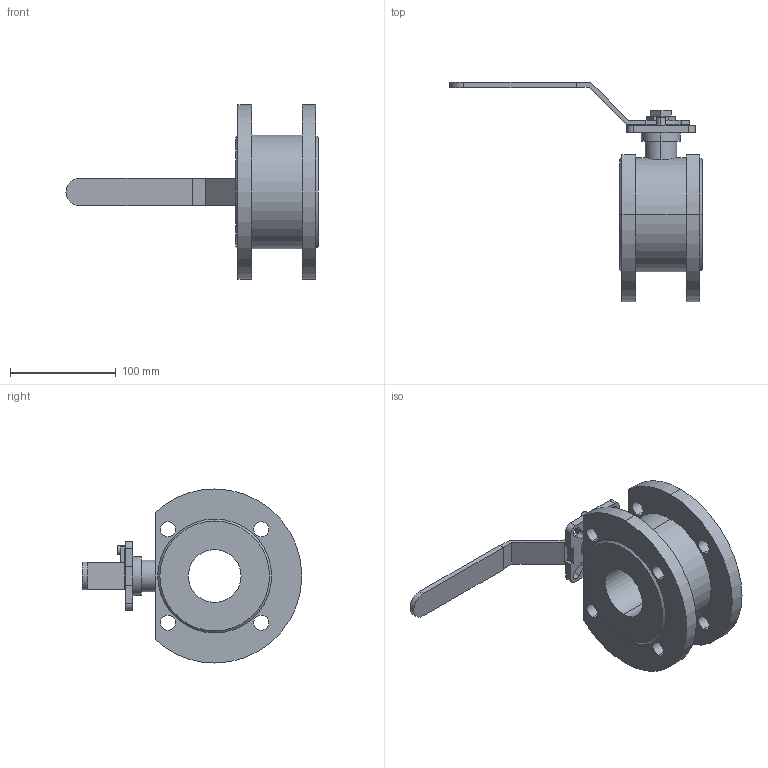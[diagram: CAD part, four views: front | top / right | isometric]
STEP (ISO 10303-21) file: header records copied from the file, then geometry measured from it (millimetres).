
FILE_DESCRIPTION (( 'STEP AP203' ), '1' );
FILE_NAME ('01.622I050X16CP.STEP', '2018-10-23T08:26:40', ( '' ), ( '' ), 'SwSTEP 2.0', 'SolidWorks 2014', '' );
FILE_SCHEMA (( 'CONFIG_CONTROL_DESIGN' ));
Length unit declared in the file: millimetre
Products named in the file (1): 01.622I050X16CP
Bounding box: 239 x 208 x 165 mm (x, y, z)
Volume: 881021.6 mm3; surface area: 125582.9 mm2
Topology: 1 solids, 1 shells, 122 faces, 321 edges, 214 vertices
Faces by surface type: plane 68, cylinder 50, cone 4
Entity records: 4016 total; most frequent: CARTESIAN_POINT 758, DIRECTION 671, ORIENTED_EDGE 642, EDGE_CURVE 321, AXIS2_PLACEMENT_3D 229, VERTEX_POINT 214, VECTOR 213, LINE 213
